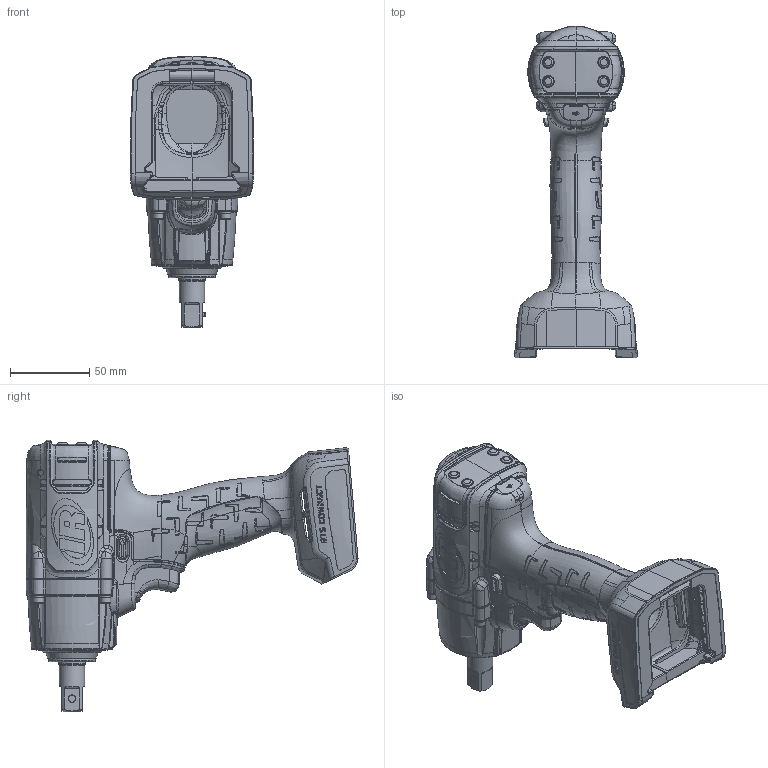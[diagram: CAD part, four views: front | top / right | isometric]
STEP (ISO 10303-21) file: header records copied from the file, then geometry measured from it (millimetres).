
FILE_DESCRIPTION(/* description */ (''),/* implementation_level */ '2;1');
FILE_NAME(/* name */ 'pin all.stp',/* time_stamp */ '2024-03-01T16:28:25+08:00',/* author */ (''),/* organization */ (''),/* preprocessor_version */ 'ST-DEVELOPER v14',/* originating_system */ 'SIEMENS PLM Software NX 8.0',/* authorisation */ '');
FILE_SCHEMA (('CONFIG_CONTROL_DESIGN'));
Products named in the file (1): _model1
Bounding box: 77.93 x 210.09 x 171.98 mm (x, y, z)
Volume: 550625.6 mm3; surface area: 102230.8 mm2
Topology: 26 solids, 51 shells, 5348 faces, 13745 edges, 8560 vertices
Faces by surface type: bspline 3079, plane 1030, cylinder 632, extrusion 378, cone 130, torus 70, sphere 22, revolution 7
Full cylindrical faces by diameter (mm): 1.6 x1, 1.66 x2, 2.05 x1, 2.9 x5, 3 x1, 3.06 x1, 3.1 x4, 3.15 x1, 3.5 x1, 3.9 x4, 4.5 x2, 6.4 x4, 6.6 x4, 15.6 x1, 16 x1, 17 x1, 29.5 x1, 45 x1
Entity records: 390706 total; most frequent: CARTESIAN_POINT 288057, ORIENTED_EDGE 27134, EDGE_CURVE 13567, DIRECTION 11864, B_SPLINE_CURVE_WITH_KNOTS 8737, VERTEX_POINT 8508, EDGE_LOOP 5584, ADVANCED_FACE 5348
